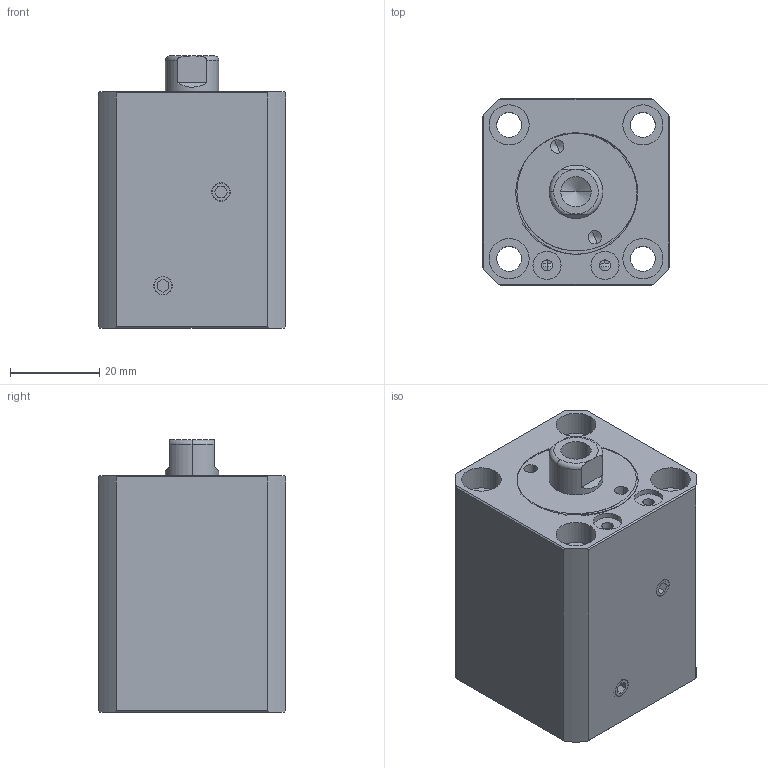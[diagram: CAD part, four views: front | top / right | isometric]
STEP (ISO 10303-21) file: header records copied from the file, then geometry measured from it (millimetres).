
FILE_DESCRIPTION (( 'STEP AP214' ), '1' );
FILE_NAME ('chtb-sdma20x10n_asm.STEP', '2018-05-18T03:11:51', ( '' ), ( '' ), 'SwSTEP 2.0', 'SolidWorks 2016', '' );
FILE_SCHEMA (( 'AUTOMOTIVE_DESIGN' ));
Length unit declared in the file: millimetre
Products named in the file (5): socket set screw flat point_iso_ISO 4026 - M5 x 5-N; QG_3; CHTB-SDMA20X10NHSG; CHTB-SDMA20X10NBT; chtb-sdma20x10n_asm
Assembly tree (5 placements, depth 2):
  chtb-sdma20x10n_asm
    CHTB-SDMA20X10NBT
    CHTB-SDMA20X10NHSG
    QG_3
    socket set screw flat point_iso_ISO 4026 - M5 x 5-N  x2
Bounding box: 42 x 42 x 61 mm (x, y, z)
Volume: 81332.8 mm3; surface area: 28208.8 mm2
Topology: 5 solids, 5 shells, 232 faces, 602 edges, 396 vertices
Faces by surface type: cylinder 111, plane 61, torus 25, bspline 21, cone 14
Entity records: 12042 total; most frequent: CARTESIAN_POINT 6742, ORIENTED_EDGE 1128, DIRECTION 1000, EDGE_CURVE 564, AXIS2_PLACEMENT_3D 415, VERTEX_POINT 376, EDGE_LOOP 256, FACE_OUTER_BOUND 217
